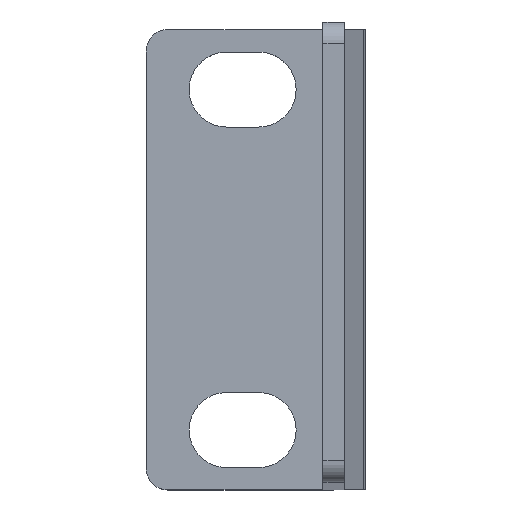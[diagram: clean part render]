
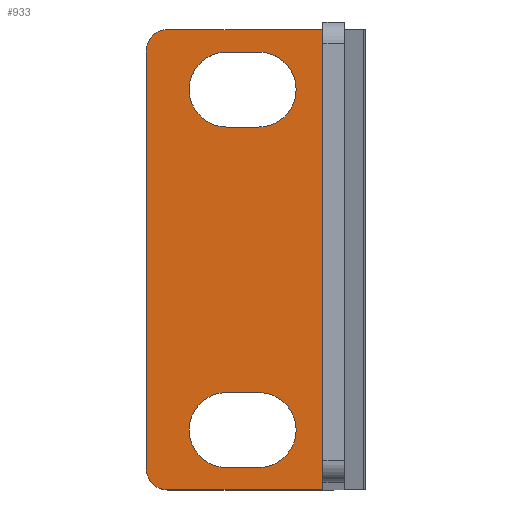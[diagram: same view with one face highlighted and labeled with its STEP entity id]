
A CAD part, top view. The second image highlights one B-rep face of the part: STEP entity #933.
In plain terms, the highlighted planar face has unit normal (0, 0, 1).
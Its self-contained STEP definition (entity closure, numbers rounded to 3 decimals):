
#78=FACE_BOUND('',#218,.T.);
#79=FACE_BOUND('',#219,.T.);
#111=PLANE('',#1039);
#161=FACE_OUTER_BOUND('',#217,.T.);
#217=EDGE_LOOP('',(#852,#853,#854,#855,#856,#857));
#218=EDGE_LOOP('',(#858,#859,#860,#861));
#219=EDGE_LOOP('',(#862,#863,#864,#865));
#277=LINE('',#1493,#361);
#280=LINE('',#1499,#364);
#289=LINE('',#1532,#373);
#292=LINE('',#1539,#376);
#295=LINE('',#1548,#379);
#298=LINE('',#1555,#382);
#301=LINE('',#1563,#385);
#303=LINE('',#1569,#387);
#361=VECTOR('',#1227,10.);
#364=VECTOR('',#1232,10.);
#373=VECTOR('',#1261,10.);
#376=VECTOR('',#1270,10.);
#379=VECTOR('',#1279,10.);
#382=VECTOR('',#1288,10.);
#385=VECTOR('',#1297,10.);
#387=VECTOR('',#1305,10.);
#418=CIRCLE('',#1022,3.5);
#419=CIRCLE('',#1025,3.5);
#420=CIRCLE('',#1028,3.5);
#421=CIRCLE('',#1031,3.5);
#422=CIRCLE('',#1034,2.);
#423=CIRCLE('',#1037,2.);
#480=VERTEX_POINT('',#1484);
#481=VERTEX_POINT('',#1488);
#483=VERTEX_POINT('',#1497);
#495=VERTEX_POINT('',#1525);
#496=VERTEX_POINT('',#1527);
#497=VERTEX_POINT('',#1531);
#498=VERTEX_POINT('',#1535);
#499=VERTEX_POINT('',#1541);
#500=VERTEX_POINT('',#1543);
#501=VERTEX_POINT('',#1547);
#502=VERTEX_POINT('',#1551);
#503=VERTEX_POINT('',#1557);
#504=VERTEX_POINT('',#1561);
#505=VERTEX_POINT('',#1565);
#587=EDGE_CURVE('',#480,#481,#277,.T.);
#590=EDGE_CURVE('',#481,#483,#280,.T.);
#604=EDGE_CURVE('',#496,#495,#418,.T.);
#606=EDGE_CURVE('',#497,#496,#289,.T.);
#608=EDGE_CURVE('',#498,#497,#419,.T.);
#610=EDGE_CURVE('',#495,#498,#292,.T.);
#612=EDGE_CURVE('',#500,#499,#420,.T.);
#614=EDGE_CURVE('',#501,#500,#295,.T.);
#616=EDGE_CURVE('',#502,#501,#421,.T.);
#618=EDGE_CURVE('',#499,#502,#298,.T.);
#620=EDGE_CURVE('',#483,#503,#422,.T.);
#622=EDGE_CURVE('',#503,#504,#301,.T.);
#624=EDGE_CURVE('',#504,#505,#423,.T.);
#625=EDGE_CURVE('',#505,#480,#303,.T.);
#852=ORIENTED_EDGE('',*,*,#587,.T.);
#853=ORIENTED_EDGE('',*,*,#590,.T.);
#854=ORIENTED_EDGE('',*,*,#620,.T.);
#855=ORIENTED_EDGE('',*,*,#622,.T.);
#856=ORIENTED_EDGE('',*,*,#624,.T.);
#857=ORIENTED_EDGE('',*,*,#625,.T.);
#858=ORIENTED_EDGE('',*,*,#604,.T.);
#859=ORIENTED_EDGE('',*,*,#610,.T.);
#860=ORIENTED_EDGE('',*,*,#608,.T.);
#861=ORIENTED_EDGE('',*,*,#606,.T.);
#862=ORIENTED_EDGE('',*,*,#612,.T.);
#863=ORIENTED_EDGE('',*,*,#618,.T.);
#864=ORIENTED_EDGE('',*,*,#616,.T.);
#865=ORIENTED_EDGE('',*,*,#614,.T.);
#933=ADVANCED_FACE('',(#161,#78,#79),#111,.T.);
#1022=AXIS2_PLACEMENT_3D('',#1528,#1256,#1257);
#1025=AXIS2_PLACEMENT_3D('',#1536,#1265,#1266);
#1028=AXIS2_PLACEMENT_3D('',#1544,#1274,#1275);
#1031=AXIS2_PLACEMENT_3D('',#1552,#1283,#1284);
#1034=AXIS2_PLACEMENT_3D('',#1559,#1292,#1293);
#1037=AXIS2_PLACEMENT_3D('',#1567,#1301,#1302);
#1039=AXIS2_PLACEMENT_3D('',#1570,#1306,#1307);
#1227=DIRECTION('',(0.,1.,0.));
#1232=DIRECTION('',(-1.,0.,0.));
#1256=DIRECTION('center_axis',(0.,0.,-1.));
#1257=DIRECTION('ref_axis',(0.,-1.,0.));
#1261=DIRECTION('',(1.,0.,0.));
#1265=DIRECTION('center_axis',(0.,0.,-1.));
#1266=DIRECTION('ref_axis',(0.,1.,0.));
#1270=DIRECTION('',(-1.,0.,0.));
#1274=DIRECTION('center_axis',(0.,0.,-1.));
#1275=DIRECTION('ref_axis',(0.,-1.,0.));
#1279=DIRECTION('',(1.,0.,0.));
#1283=DIRECTION('center_axis',(0.,0.,-1.));
#1284=DIRECTION('ref_axis',(0.,1.,0.));
#1288=DIRECTION('',(-1.,0.,0.));
#1292=DIRECTION('center_axis',(0.,0.,1.));
#1293=DIRECTION('ref_axis',(0.,1.,0.));
#1297=DIRECTION('',(0.,-1.,0.));
#1301=DIRECTION('center_axis',(0.,0.,1.));
#1302=DIRECTION('ref_axis',(-1.,0.,0.));
#1305=DIRECTION('',(1.,0.,0.));
#1306=DIRECTION('center_axis',(0.,0.,1.));
#1307=DIRECTION('ref_axis',(1.,0.,0.));
#1484=CARTESIAN_POINT('',(-3.,-21.5,0.));
#1488=CARTESIAN_POINT('',(-3.,21.5,0.));
#1493=CARTESIAN_POINT('',(-3.,10.75,0.));
#1497=CARTESIAN_POINT('',(-18.5,21.5,0.));
#1499=CARTESIAN_POINT('',(0.,21.5,0.));
#1525=CARTESIAN_POINT('',(-10.,12.4,0.));
#1527=CARTESIAN_POINT('',(-10.,19.4,0.));
#1528=CARTESIAN_POINT('Origin',(-10.,15.9,0.));
#1531=CARTESIAN_POINT('',(-13.,19.4,0.));
#1532=CARTESIAN_POINT('',(-10.052,19.4,0.));
#1535=CARTESIAN_POINT('',(-13.,12.4,0.));
#1536=CARTESIAN_POINT('Origin',(-13.,15.9,0.));
#1539=CARTESIAN_POINT('',(-11.552,12.4,0.));
#1541=CARTESIAN_POINT('',(-10.,-19.4,0.));
#1543=CARTESIAN_POINT('',(-10.,-12.4,0.));
#1544=CARTESIAN_POINT('Origin',(-10.,-15.9,0.));
#1547=CARTESIAN_POINT('',(-13.,-12.4,0.));
#1548=CARTESIAN_POINT('',(-10.052,-12.4,0.));
#1551=CARTESIAN_POINT('',(-13.,-19.4,0.));
#1552=CARTESIAN_POINT('Origin',(-13.,-15.9,0.));
#1555=CARTESIAN_POINT('',(-11.552,-19.4,0.));
#1557=CARTESIAN_POINT('',(-20.5,19.5,0.));
#1559=CARTESIAN_POINT('Origin',(-18.5,19.5,0.));
#1561=CARTESIAN_POINT('',(-20.5,-19.5,0.));
#1563=CARTESIAN_POINT('',(-20.5,19.5,0.));
#1565=CARTESIAN_POINT('',(-18.5,-21.5,0.));
#1567=CARTESIAN_POINT('Origin',(-18.5,-19.5,0.));
#1569=CARTESIAN_POINT('',(-18.5,-21.5,0.));
#1570=CARTESIAN_POINT('Origin',(-10.104,0.,
0.));
